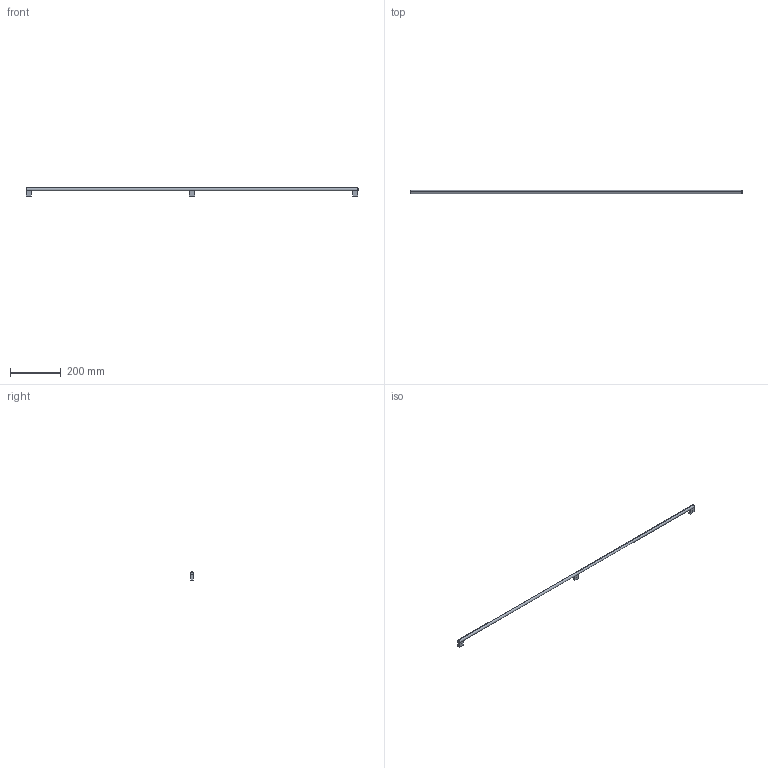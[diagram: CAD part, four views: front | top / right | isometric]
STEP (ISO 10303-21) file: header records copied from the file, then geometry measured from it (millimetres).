
FILE_DESCRIPTION( ( '' ), '1' );
FILE_NAME( 'D:/temp/hettich_stp/hettich/prodecor_handles/organic/ 115233.stp', '2013-02-26T12:49:50', ( '' ), ( '' ), ' ', ' ', ' ' );
FILE_SCHEMA( ( 'automotive_design' ) );
Length unit declared in the file: millimetre
Products named in the file (1): 1
Bounding box: 1306 x 11.97 x 32 mm (x, y, z)
Volume: 158800.5 mm3; surface area: 53725.2 mm2
Topology: 1 solids, 1 shells, 32 faces, 75 edges, 48 vertices
Faces by surface type: plane 20, cylinder 8, cone 4
Entity records: 1818 total; most frequent: DIRECTION 173, STYLED_ITEM 156, PRESENTATION_STYLE_ASSIGNMENT 156, CARTESIAN_POINT 156, COLOUR_RGB 156, ORIENTED_EDGE 150, EDGE_CURVE 75, CURVE_STYLE 75
